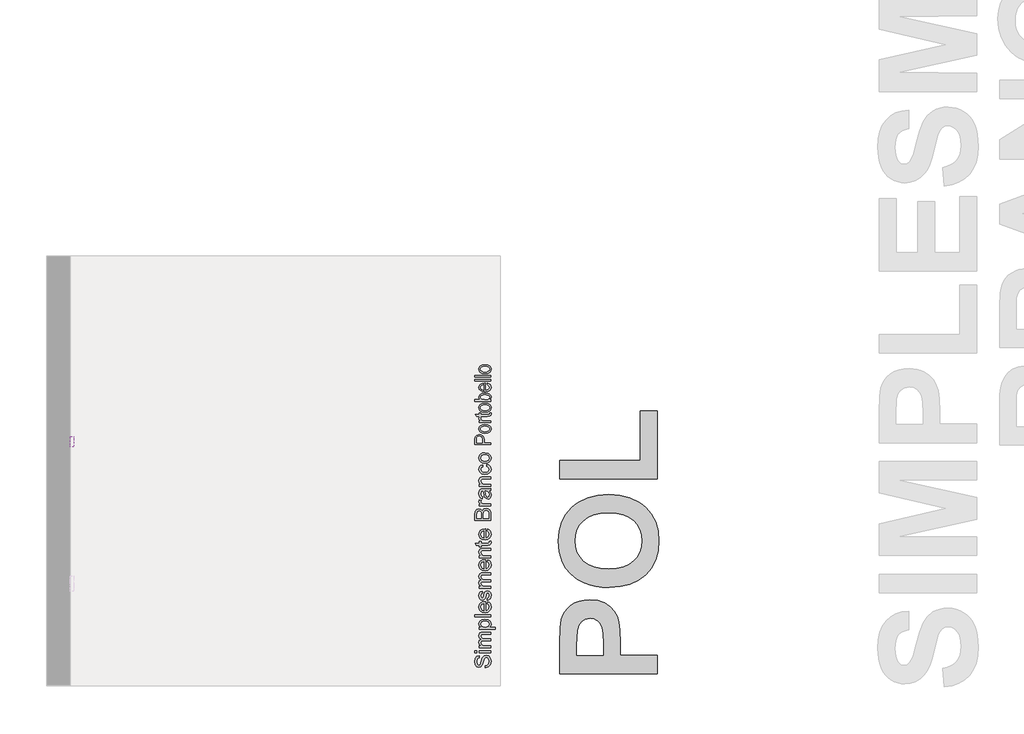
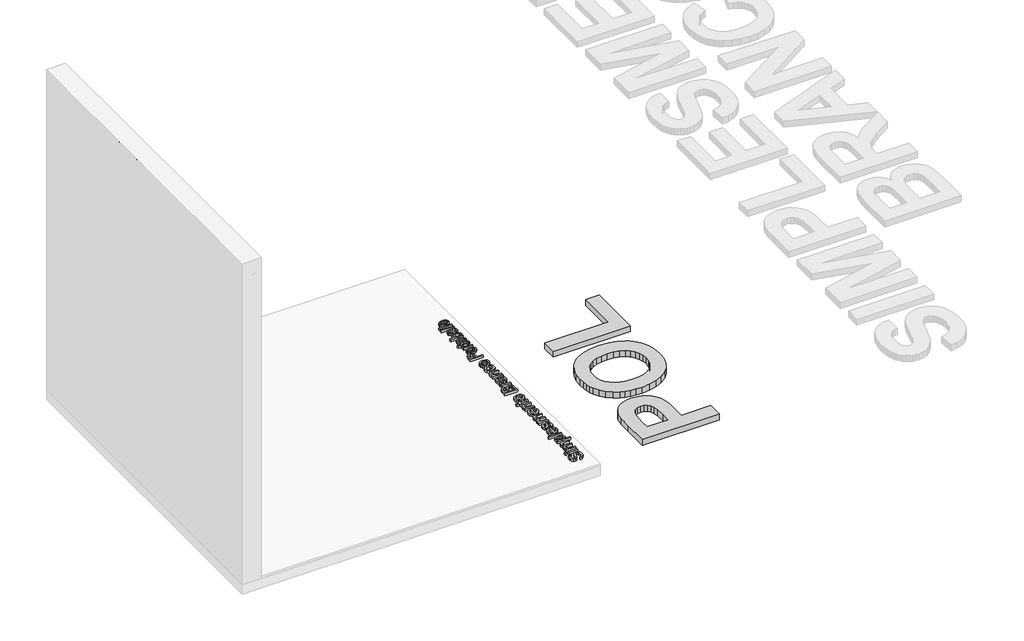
# One storey, part 3 of 6: 4 proxies.
"""IFC4 building model written with IfcOpenShell, lengths in millimetres."""

import ifcopenshell
import ifcopenshell.guid

model = None  # the IFC model being written
_history = None  # IfcOwnerHistory: only IFC2X3 demands one
_inside = {}  # id of a spatial element -> (the spatial element, [elements in it])
_under = {}  # id of a project, library or spatial element -> (it, [spatial elements below it])
_declared = {}  # id of a project -> (the project, [libraries it declares])
_typed = {}  # id of a type object -> (the type object, [elements of that type])
_made_of = {}  # id of a material, layer set ... -> (it, [elements and type objects made of it])


def new_model(schema):
    """Start an empty IFC model of exactly this schema.

    Asked for "IFC4X3", IfcOpenShell would pick the latest addendum, in which some entities
    have other attributes; the version numbers below select the first issue.
    IFC2X3 requires an IfcOwnerHistory on every rooted entity: one is made here for all.
    """
    global model, _history
    if schema == "IFC4X3":
        model = ifcopenshell.file(schema_version=(4, 3, 0, 0))
    else:
        model = ifcopenshell.file(schema=schema)
    _inside.clear()
    _under.clear()
    _declared.clear()
    _typed.clear()
    _made_of.clear()
    _history = None
    if model.schema == "IFC2X3":
        org = make("IfcOrganization", Name="unknown")
        user = make(
            "IfcPersonAndOrganization",
            ThePerson=make("IfcPerson", FamilyName="unknown"),
            TheOrganization=org,
        )
        app = make(
            "IfcApplication",
            ApplicationDeveloper=org,
            Version="unknown",
            ApplicationFullName="unknown",
            ApplicationIdentifier="unknown",
        )
        _history = make(
            "IfcOwnerHistory",
            OwningUser=user,
            OwningApplication=app,
            ChangeAction="ADDED",
            CreationDate=0,
        )
    return model


def make(cls, **values):
    """One entity of the class cls with the attributes given. An attribute that is None is left unset."""
    return model.create_entity(
        cls, **{name: value for name, value in values.items() if value is not None}
    )


def rooted(cls, **values):
    """An entity with a GlobalId (a new one), such as an element, a storey or a relation."""
    return make(cls, GlobalId=ifcopenshell.guid.new(), OwnerHistory=_history, **values)


def si_unit(unit_type, name, prefix=None):
    """IfcSIUnit, for example si_unit("LENGTHUNIT", "METRE", prefix="MILLI")."""
    return make("IfcSIUnit", UnitType=unit_type, Prefix=prefix, Name=name)


def assignment(units):
    """IfcUnitAssignment: the units of a project."""
    return None if units is None else make("IfcUnitAssignment", Units=units)


def point(xyz):
    """IfcCartesianPoint."""
    return None if xyz is None else make("IfcCartesianPoint", Coordinates=xyz)


def direction(xyz):
    """IfcDirection."""
    return None if xyz is None else make("IfcDirection", DirectionRatios=xyz)


def frame(location, z_axis=None, x_axis=None):
    """IfcAxis2Placement3D, a coordinate frame: its origin and axes. An axis left out is left unset."""
    return make(
        "IfcAxis2Placement3D",
        Location=point(location),
        Axis=direction(z_axis),
        RefDirection=direction(x_axis),
    )


def origin():
    """The frame at (0, 0, 0) with its axes left unset."""
    return frame((0.0, 0.0, 0.0))


def origin_with_axes():
    """The frame at (0, 0, 0) with the z axis (0, 0, 1) and the x axis (1, 0, 0) written out."""
    return frame((0.0, 0.0, 0.0), z_axis=(0.0, 0.0, 1.0), x_axis=(1.0, 0.0, 0.0))


def place(relative_to, where):
    """IfcLocalPlacement: puts the frame where relative to a parent placement (None: the world)."""
    return make(
        "IfcLocalPlacement", PlacementRelTo=relative_to, RelativePlacement=where
    )


def context(
    kind, dimensions, precision=None, world=None, true_north=None, identifier=None
):
    """IfcGeometricRepresentationContext, for example the 3D "Model" context."""
    return make(
        "IfcGeometricRepresentationContext",
        ContextIdentifier=identifier,
        ContextType=kind,
        CoordinateSpaceDimension=dimensions,
        Precision=precision,
        WorldCoordinateSystem=world,
        TrueNorth=true_north,
    )


def project(units=None, contexts=None):
    """IfcProject with its units and contexts."""
    return rooted(
        "IfcProject",
        Name="project",
        RepresentationContexts=contexts,
        UnitsInContext=assignment(units),
    )


def spatial(cls, under=None, at=None, **own):
    """A site, building, storey or space (cls), placed at a placement, below another one or the project."""
    s = rooted(cls, ObjectPlacement=at, **own)
    if under is not None:
        _under.setdefault(under.id(), (under, []))[1].append(s)
    return s


def polyline(points):
    """IfcPolyline through the points."""
    return make("IfcPolyline", Points=[point(p) for p in points])


def outline(outer, holes=None, kind="AREA"):
    """IfcArbitraryClosedProfileDef: a profile drawn as a closed curve; with holes, ...WithVoids."""
    if holes is None:
        return make("IfcArbitraryClosedProfileDef", ProfileType=kind, OuterCurve=outer)
    return make(
        "IfcArbitraryProfileDefWithVoids",
        ProfileType=kind,
        OuterCurve=outer,
        InnerCurves=holes,
    )


def extrude(swept, where, along, depth):
    """IfcExtrudedAreaSolid: the profile swept, set in the frame where, extruded along a direction by depth."""
    return make(
        "IfcExtrudedAreaSolid",
        SweptArea=swept,
        Position=where,
        ExtrudedDirection=direction(along),
        Depth=depth,
    )


def shape(context_of_items, identifier, shape_type, items):
    """IfcShapeRepresentation: the items that make up one representation, for example the "Body"."""
    return make(
        "IfcShapeRepresentation",
        ContextOfItems=context_of_items,
        RepresentationIdentifier=identifier,
        RepresentationType=shape_type,
        Items=items,
    )


def made_of(thing, what):
    """Note that an element or type object is made of a material, layer set ...; save() writes the relation."""
    if what is not None:
        _made_of.setdefault(what.id(), (what, []))[1].append(thing)
    return thing


def element(
    cls,
    number,
    at=None,
    inside=None,
    cuts=None,
    type_object=None,
    material=None,
    context=None,
    identifier="Body",
    shape_type=None,
    held_by="IfcProductDefinitionShape",
    body=None,
    shapes=None,
    **own,
):
    """One element of the class cls, such as IfcWall. Its Tag is "e" and its number.

    at: its placement. inside: the storey or other place that contains it. cuts: it is an
    opening in that element (IfcRelVoidsElement). A single representation is given by context,
    identifier, shape_type and body (its items); several are given by shapes. held_by: the class
    of the entity that holds the representations. save() writes the other relations.
    """
    e = rooted(cls, Tag="e%d" % number, ObjectPlacement=at, **own)
    if body is not None:
        shapes = [shape(context, identifier, shape_type, body)]
    if shapes is not None:
        e.Representation = make(held_by, Representations=shapes)
    if inside is not None:
        _inside.setdefault(inside.id(), (inside, []))[1].append(e)
    if cuts is not None:
        rooted(
            "IfcRelVoidsElement", RelatingBuildingElement=cuts, RelatedOpeningElement=e
        )
    if type_object is not None:
        _typed.setdefault(type_object.id(), (type_object, []))[1].append(e)
    return made_of(e, material)


def aggregate(whole, parts):
    """IfcRelAggregates: a whole, such as a stair, and the parts it consists of."""
    return rooted("IfcRelAggregates", RelatingObject=whole, RelatedObjects=parts)


def save(model, path):
    """Write the relations noted so far, then the file.

    IfcRelAggregates (storeys below a building ...), IfcRelContainedInSpatialStructure (elements
    in a storey), IfcRelDefinesByType, IfcRelAssociatesMaterial and IfcRelDeclares: one each for
    every whole, place, type object, material and project.
    """
    for whole, parts in _under.values():
        aggregate(whole, parts)
    for where, things in _inside.values():
        rooted(
            "IfcRelContainedInSpatialStructure",
            RelatedElements=things,
            RelatingStructure=where,
        )
    for kind, things in _typed.values():
        rooted("IfcRelDefinesByType", RelatedObjects=things, RelatingType=kind)
    for what, things in _made_of.values():
        rooted("IfcRelAssociatesMaterial", RelatedObjects=things, RelatingMaterial=what)
    for by, libraries in _declared.values():
        rooted("IfcRelDeclares", RelatingContext=by, RelatedDefinitions=libraries)
    model.write(path)


model = new_model("IFC4")

# Units and contexts
model_context = context("Model", 3, world=origin())
ifc_project = project(units=[si_unit("LENGTHUNIT", "METRE", prefix="MILLI")], contexts=[model_context])

# Site, building, storey
site = spatial("IfcSite", under=ifc_project)
building = spatial("IfcBuilding", under=site)
storey = spatial("IfcBuildingStorey", under=building, Name="PORTOBELLO - SHOWROOM", Elevation=0.0)

# Proxies
placement = place(None, origin())
element("IfcBuildingElementProxy", 1, Name="10mm Arial", ObjectType="10mm Arial", at=placement, inside=storey, context=model_context, shape_type="SweptSolid", body=[
    extrude(outline(polyline([(243776.2626228, -7918.9511253), (243776.2626228, -7906.3940866), (243788.8319243, -7902.3473846), (243796.7781754, -7892.4636217), (243799.8070705, -7877.4049853), (243797.5139394, -7864.2838608), (243791.2108946, -7855.8103122), (243782.7863969, -7853.0266718), (243774.9505104, -7855.1113364), (243769.2483395, -7863.6461987), (243764.4536108, -7881.9299339), (243758.2609305, -7901.6116206), (243748.9167279, -7912.2924612), (243736.4332655, -7915.8118656), (243722.2207577, -7911.4585954), (243712.189842, -7898.7421411), (243708.7685395, -7880.1273121), (243712.3492575, -7860.2616844), (243722.8706826, -7847.0179325), (243738.5915065, -7842.0392629), (243738.5915065, -7854.5963016), (243731.0989766, -7856.9016955), (243725.6911112, -7861.7086869), (243721.3255782, -7879.6368028), (243725.6420603, -7897.6139696), (243736.0653835, -7903.2548269), (243744.771924, -7899.2571759), (243751.7862074, -7878.753886), (243758.0892523, -7856.5338135), (243768.2673208, -7844.3814449), (243782.4675658, -7840.469633), (243797.489414, -7844.9700561), (243808.4522974, -7857.9195023), (243812.3641093, -7876.914476), (243808.1457291, -7899.343015), (243795.4415375, -7913.5309973), (243776.2626228, -7918.9511253)])), frame((0.0, 0.0, 17.0), z_axis=(0.0, 0.0, 1.0), x_axis=(1.0, 0.0, 0.0)), (0.0, 0.0, 1.0), 20.0),
    extrude(outline(polyline([(243722.8952081, -7823.2037047), (243710.3381693, -7823.2037047), (243710.3381693, -7810.6466659), (243722.8952081, -7810.6466659), (243722.8952081, -7823.2037047)])), frame((0.0, 0.0, 17.0), z_axis=(0.0, 0.0, 1.0), x_axis=(1.0, 0.0, 0.0)), (0.0, 0.0, 1.0), 20.0),
    extrude(outline(polyline([(243810.7944794, -7823.2037047), (243737.0218767, -7823.2037047), (243737.0218767, -7810.6466659), (243810.7944794, -7810.6466659), (243810.7944794, -7823.2037047)])), frame((0.0, 0.0, 17.0), z_axis=(0.0, 0.0, 1.0), x_axis=(1.0, 0.0, 0.0)), (0.0, 0.0, 1.0), 20.0),
    extrude(outline(polyline([(243810.7944794, -7791.8111078), (243737.0218767, -7791.8111078), (243737.0218767, -7779.254069), (243749.1619825, -7779.254069), (243739.2169059, -7770.6211049), (243735.4522468, -7758.3338462), (243739.2904823, -7745.752282), (243750.0448993, -7738.8361005), (243739.10041, -7729.0381767), (243735.4522468, -7716.6650789), (243736.9697601, -7707.2258401), (243741.5222998, -7700.2452792), (243749.2324932, -7695.9318628), (243760.2229678, -7694.4940573), (243810.7944794, -7694.4940573), (243810.7944794, -7707.0510961), (243765.6185704, -7707.0510961), (243755.1339336, -7708.2160558), (243749.9713229, -7712.434436), (243748.0092856, -7719.6081349), (243753.0370062, -7731.9567072), (243759.5791744, -7735.6447242), (243769.1502376, -7736.8740632), (243810.7944794, -7736.8740632), (243810.7944794, -7749.4311019), (243764.2206189, -7749.4311019), (243752.0559876, -7752.3373697), (243748.0092856, -7761.8655134), (243750.7070869, -7771.1606651), (243758.6042871, -7777.3410826), (243773.589347, -7779.254069), (243810.7944794, -7779.254069), (243810.7944794, -7791.8111078)])), frame((0.0, 0.0, 17.0), z_axis=(0.0, 0.0, 1.0), x_axis=(1.0, 0.0, 0.0)), (0.0, 0.0, 1.0), 20.0),
    extrude(outline(polyline([(243839.0478167, -7675.6584992), (243737.0218767, -7675.6584992), (243737.0218767, -7663.1014604), (243749.3336608, -7663.1014604), (243738.9226003, -7654.4194453), (243735.4522468, -7642.6962724), (243740.3082892, -7626.7792448), (243753.9934994, -7616.380447), (243773.3440923, -7612.8733053), (243793.6879667, -7616.8341682), (243807.5448552, -7628.3366119), (243812.3641093, -7644.2168513), (243809.1390105, -7655.1429466), (243800.9842929, -7663.1014604), (243839.0478167, -7663.1014604), (243839.0478167, -7675.6584992)]), holes=[polyline([(243774.4967893, -7663.1014604), (243785.7539783, -7661.7433627), (243793.626653, -7657.6690696), (243798.2619661, -7651.6572647), (243799.8070705, -7644.4866315), (243798.2067838, -7637.1995023), (243793.4059238, -7631.0344132), (243785.2450749, -7626.8313614), (243773.5648215, -7625.4303441), (243762.3689462, -7626.7976389), (243754.3859069, -7630.8995231), (243749.6034409, -7636.902131), (243748.0092856, -7643.9715967), (243749.7046085, -7651.0686535), (243754.790577, -7657.3011876), (243763.1077758, -7661.6513922), (243774.4967893, -7663.1014604)])]), frame((0.0, 0.0, 17.0), z_axis=(0.0, 0.0, 1.0), x_axis=(1.0, 0.0, 0.0)), (0.0, 0.0, 1.0), 20.0),
    extrude(outline(polyline([(243810.7944794, -7598.7466367), (243710.3381693, -7598.7466367), (243710.3381693, -7586.189598), (243810.7944794, -7586.189598), (243810.7944794, -7598.7466367)])), frame((0.0, 0.0, 17.0), z_axis=(0.0, 0.0, 1.0), x_axis=(1.0, 0.0, 0.0)), (0.0, 0.0, 1.0), 20.0),
    extrude(outline(polyline([(243788.8196616, -7515.7034077), (243790.3892914, -7503.3916236), (243799.6660491, -7507.8276673), (243806.6006247, -7514.90633), (243810.9232381, -7524.4681962), (243812.3641093, -7536.3538503), (243809.8778401, -7551.0875242), (243802.4190327, -7562.4244211), (243790.4720649, -7569.6533023), (243774.5213147, -7572.0629293), (243758.03407, -7569.6287768), (243745.7038918, -7562.3263192), (243738.0151581, -7551.1427065), (243735.4522468, -7537.0650889), (243738.0090267, -7523.4258639), (243745.6793663, -7512.5273598), (243757.985019, -7505.381252), (243774.4477383, -7502.9992161), (243777.8322527, -7503.0727925), (243777.8322527, -7559.5058906), (243787.2316377, -7557.3323211), (243794.1416878, -7552.2831407), (243798.3907248, -7544.9960115), (243799.8070705, -7536.1085957), (243797.1828456, -7523.7968116), (243788.8196616, -7515.7034077)]), holes=[polyline([(243765.2752139, -7559.5058906), (243765.2752139, -7515.5562549), (243753.8953975, -7520.5839755), (243749.4808136, -7527.9048272), (243748.0092856, -7537.1141398), (243752.7059124, -7552.5774463), (243758.1965512, -7557.4426857), (243765.2752139, -7559.5058906)])]), frame((0.0, 0.0, 17.0), z_axis=(0.0, 0.0, 1.0), x_axis=(1.0, 0.0, 0.0)), (0.0, 0.0, 1.0), 20.0),
    extrude(outline(polyline([(243788.8196616, -7495.1510669), (243787.2500318, -7482.5940281), (243796.569709, -7476.7814926), (243799.8070705, -7463.4641644), (243796.8394891, -7450.6618709), (243789.8742567, -7446.4925417), (243784.2333994, -7450.6863964), (243780.6526813, -7463.6113172), (243774.509052, -7482.5204517), (243767.3353531, -7490.7732711), (243757.2063355, -7493.581437), (243747.8498701, -7491.3250941), (243740.7006966, -7485.1692021), (243736.9850885, -7477.1861628), (243735.4522468, -7466.3826949), (243737.9170562, -7451.1033293), (243744.5879831, -7441.3912447), (243755.8574348, -7437.0747626), (243757.4270647, -7449.6318013), (243750.4986204, -7454.3529536), (243748.0092856, -7465.4016762), (243750.3882558, -7477.4191547), (243755.9310112, -7481.0243983), (243759.5853057, -7479.5283448), (243762.3566834, -7474.8439807), (243765.0299592, -7464.0282501), (243770.9405966, -7445.5973621), (243777.636049, -7437.0379744), (243788.5498815, -7433.9355029), (243800.56736, -7437.5775346), (243809.2861633, -7448.086697), (243812.3641093, -7463.6358426), (243810.8803186, -7476.2971146), (243806.4289464, -7485.5370841), (243799.0590438, -7491.7052389), (243788.8196616, -7495.1510669)])), frame((0.0, 0.0, 17.0), z_axis=(0.0, 0.0, 1.0), x_axis=(1.0, 0.0, 0.0)), (0.0, 0.0, 1.0), 20.0),
    extrude(outline(polyline([(243810.7944794, -7419.8088343), (243737.0218767, -7419.8088343), (243737.0218767, -7407.2517955), (243749.1619825, -7407.2517955), (243739.2169059, -7398.6188313), (243735.4522468, -7386.3315727), (243739.2904823, -7373.7500085), (243750.0448993, -7366.833827), (243739.10041, -7357.0359032), (243735.4522468, -7344.6628054), (243736.9697601, -7335.2235665), (243741.5222998, -7328.2430057), (243749.2324932, -7323.9295893), (243760.2229678, -7322.4917838), (243810.7944794, -7322.4917838), (243810.7944794, -7335.0488226), (243765.6185704, -7335.0488226), (243755.1339336, -7336.2137822), (243749.9713229, -7340.4321624), (243748.0092856, -7347.6058614), (243753.0370062, -7359.9544337), (243759.5791744, -7363.6424507), (243769.1502376, -7364.8717897), (243810.7944794, -7364.8717897), (243810.7944794, -7377.4288284), (243764.2206189, -7377.4288284), (243752.0559876, -7380.3350962), (243748.0092856, -7389.8632399), (243750.7070869, -7399.1583916), (243758.6042871, -7405.3388091), (243773.589347, -7407.2517955), (243810.7944794, -7407.2517955), (243810.7944794, -7419.8088343)])), frame((0.0, 0.0, 17.0), z_axis=(0.0, 0.0, 1.0), x_axis=(1.0, 0.0, 0.0)), (0.0, 0.0, 1.0), 20.0),
    extrude(outline(polyline([(243788.8196616, -7252.0055935), (243790.3892914, -7239.6938094), (243799.6660491, -7244.1298532), (243806.6006247, -7251.2085159), (243810.9232381, -7260.7703821), (243812.3641093, -7272.6560362), (243809.8778401, -7287.3897101), (243802.4190327, -7298.7266069), (243790.4720649, -7305.9554881), (243774.5213147, -7308.3651152), (243758.03407, -7305.9309627), (243745.7038918, -7298.6285051), (243738.0151581, -7287.4448924), (243735.4522468, -7273.3672747), (243738.0090267, -7259.7280498), (243745.6793663, -7248.8295456), (243757.985019, -7241.6834379), (243774.4477383, -7239.301402), (243777.8322527, -7239.3749784), (243777.8322527, -7295.8080764), (243787.2316377, -7293.634507), (243794.1416878, -7288.5853266), (243798.3907248, -7281.2981974), (243799.8070705, -7272.4107815), (243797.1828456, -7260.0989974), (243788.8196616, -7252.0055935)]), holes=[polyline([(243765.2752139, -7295.8080764), (243765.2752139, -7251.8584407), (243753.8953975, -7256.8861613), (243749.4808136, -7264.207013), (243748.0092856, -7273.4163257), (243752.7059124, -7288.8796322), (243758.1965512, -7293.7448716), (243765.2752139, -7295.8080764)])]), frame((0.0, 0.0, 17.0), z_axis=(0.0, 0.0, 1.0), x_axis=(1.0, 0.0, 0.0)), (0.0, 0.0, 1.0), 20.0),
    extrude(outline(polyline([(243810.7944794, -7226.7443632), (243737.0218767, -7226.7443632), (243737.0218767, -7214.1873244), (243747.3225725, -7214.1873244), (243738.4198283, -7204.5856044), (243735.4522468, -7191.4767426), (243737.8434798, -7179.6186796), (243744.1219992, -7171.5252757), (243753.3558373, -7167.7606166), (243765.4959431, -7167.0984291), (243810.7944794, -7167.0984291), (243810.7944794, -7179.6554678), (243767.1882003, -7179.6554678), (243756.078164, -7181.1024703), (243750.2043148, -7186.2160301), (243748.0092856, -7194.8367315), (243752.9389043, -7208.460628), (243760.0819464, -7212.7556503), (243771.6518352, -7214.1873244), (243810.7944794, -7214.1873244), (243810.7944794, -7226.7443632)])), frame((0.0, 0.0, 17.0), z_axis=(0.0, 0.0, 1.0), x_axis=(1.0, 0.0, 0.0)), (0.0, 0.0, 1.0), 20.0),
    extrude(outline(polyline([(243800.3221053, -7123.1487934), (243811.1623614, -7121.5791635), (243812.3641093, -7130.9724171), (243810.2794447, -7141.4938422), (243804.8102657, -7146.742292), (243790.5609697, -7148.2628709), (243749.5789155, -7148.2628709), (243749.5789155, -7157.68065), (243737.0218767, -7157.68065), (243737.0218767, -7148.2628709), (243719.0937608, -7148.2628709), (243711.7115954, -7135.7058321), (243737.0218767, -7135.7058321), (243737.0218767, -7123.1487934), (243749.5789155, -7123.1487934), (243749.5789155, -7135.7058321), (243790.1930877, -7135.7058321), (243796.6678108, -7135.0436445), (243798.9609419, -7132.8976662), (243799.8070705, -7128.6179724), (243800.3221053, -7123.1487934)])), frame((0.0, 0.0, 17.0), z_axis=(0.0, 0.0, 1.0), x_axis=(1.0, 0.0, 0.0)), (0.0, 0.0, 1.0), 20.0),
    extrude(outline(polyline([(243788.8196616, -7058.9411225), (243790.3892914, -7046.6293384), (243799.6660491, -7051.0653821), (243806.6006247, -7058.1440448), (243810.9232381, -7067.705911), (243812.3641093, -7079.5915651), (243809.8778401, -7094.325239), (243802.4190327, -7105.6621359), (243790.4720649, -7112.8910171), (243774.5213147, -7115.3006441), (243758.03407, -7112.8664916), (243745.7038918, -7105.564034), (243738.0151581, -7094.3804213), (243735.4522468, -7080.3028037), (243738.0090267, -7066.6635787), (243745.6793663, -7055.7650746), (243757.985019, -7048.6189668), (243774.4477383, -7046.2369309), (243777.8322527, -7046.3105073), (243777.8322527, -7102.7436054), (243787.2316377, -7100.5700359), (243794.1416878, -7095.5208555), (243798.3907248, -7088.2337263), (243799.8070705, -7079.3463105), (243797.1828456, -7067.0345264), (243788.8196616, -7058.9411225)]), holes=[polyline([(243765.2752139, -7102.7436054), (243765.2752139, -7058.7939697), (243753.8953975, -7063.8216903), (243749.4808136, -7071.142542), (243748.0092856, -7080.3518546), (243752.7059124, -7095.8151611), (243758.1965512, -7100.6804005), (243765.2752139, -7102.7436054)])]), frame((0.0, 0.0, 17.0), z_axis=(0.0, 0.0, 1.0), x_axis=(1.0, 0.0, 0.0)), (0.0, 0.0, 1.0), 20.0),
    extrude(outline(polyline([(243810.7944794, -6992.8695161), (243710.3381693, -6992.8695161), (243710.3381693, -6954.5362122), (243713.293488, -6935.7619678), (243722.3801733, -6924.676457), (243735.2315176, -6920.6665432), (243746.9669533, -6924.0387948), (243755.8574348, -6934.2291261), (243765.226163, -6921.8560283), (243780.848885, -6917.5272835), (243794.3501543, -6920.4826022), (243803.9641371, -6927.8034539), (243809.0654341, -6938.7295492), (243810.7944794, -6954.8305178), (243810.7944794, -6992.8695161)]), holes=[polyline([(243751.1485453, -6980.3124774), (243751.1485453, -6957.3811663), (243750.0694248, -6943.9902617), (243745.4218489, -6935.933646), (243737.2426059, -6933.223582), (243729.0511001, -6935.749705), (243724.2073205, -6942.9847176), (243722.8952081, -6959.1224744), (243722.8952081, -6980.3124774), (243751.1485453, -6980.3124774)]), polyline([(243798.2374407, -6980.3124774), (243798.2374407, -6954.5607377), (243797.7469314, -6945.2410605), (243795.0123419, -6937.3561231), (243789.4327983, -6932.1321987), (243780.9715124, -6930.0843223), (243771.2103768, -6932.487818), (243765.3855785, -6940.2746536), (243763.7055841, -6955.787011), (243763.7055841, -6980.3124774), (243798.2374407, -6980.3124774)])]), frame((0.0, 0.0, 17.0), z_axis=(0.0, 0.0, 1.0), x_axis=(1.0, 0.0, 0.0)), (0.0, 0.0, 1.0), 20.0),
    extrude(outline(polyline([(243810.7944794, -6901.8309851), (243737.0218767, -6901.8309851), (243737.0218767, -6890.8435761), (243747.9357092, -6890.8435761), (243737.880268, -6883.0444778), (243735.4522468, -6875.1963286), (243739.3272705, -6862.5902389), (243750.5844596, -6866.7840937), (243748.0092856, -6875.6132615), (243750.4863577, -6882.713384), (243757.3534883, -6887.2383326), (243772.0197172, -6889.2739463), (243810.7944794, -6889.2739463), (243810.7944794, -6901.8309851)])), frame((0.0, 0.0, 17.0), z_axis=(0.0, 0.0, 1.0), x_axis=(1.0, 0.0, 0.0)), (0.0, 0.0, 1.0), 20.0),
    extrude(outline(polyline([(243801.3767004, -6807.6531943), (243809.8870372, -6819.8300883), (243812.3641093, -6833.2823066), (243810.8741872, -6843.7761405), (243806.404421, -6851.5169909), (243799.6169982, -6856.2902597), (243791.1741064, -6857.8813494), (243781.2412925, -6855.4778537), (243774.0308054, -6849.1625461), (243769.9105271, -6840.3701664), (243768.0220661, -6829.5053848), (243763.7055841, -6807.7267707), (243760.9096809, -6807.6531943), (243751.6390546, -6811.1112851), (243748.0092856, -6824.992699), (243750.425044, -6837.6968906), (243758.9966945, -6843.7546808), (243757.4270647, -6856.3117195), (243745.1643315, -6850.8793287), (243737.9783699, -6839.9409707), (243735.4522468, -6823.3740182), (243737.6840643, -6808.1559664), (243743.2881333, -6799.5597904), (243751.8107329, -6795.7092922), (243762.7981418, -6795.0961555), (243778.4208639, -6795.0961555), (243800.2362662, -6794.4584934), (243810.7944794, -6791.9568958), (243810.7944794, -6804.5139346), (243801.3767004, -6807.6531943)]), holes=[polyline([(243776.2626228, -6807.6531943), (243780.1131211, -6827.9112295), (243782.1487348, -6838.7146974), (243785.4596727, -6843.607528), (243790.2911896, -6845.3243106), (243797.0847438, -6841.584177), (243799.8070705, -6830.6090308), (243796.8027009, -6817.9048392), (243789.5309001, -6809.7133335), (243779.8188155, -6807.7267707), (243776.2626228, -6807.6531943)])]), frame((0.0, 0.0, 17.0), z_axis=(0.0, 0.0, 1.0), x_axis=(1.0, 0.0, 0.0)), (0.0, 0.0, 1.0), 20.0),
    extrude(outline(polyline([(243810.7944794, -6777.8302272), (243737.0218767, -6777.8302272), (243737.0218767, -6765.2731885), (243747.3225725, -6765.2731885), (243738.4198283, -6755.6714684), (243735.4522468, -6742.5626066), (243737.8434798, -6730.7045436), (243744.1219992, -6722.6111397), (243753.3558373, -6718.8464807), (243765.4959431, -6718.1842931), (243810.7944794, -6718.1842931), (243810.7944794, -6730.7413318), (243767.1882003, -6730.7413318), (243756.078164, -6732.1883344), (243750.2043148, -6737.3018941), (243748.0092856, -6745.9225955), (243752.9389043, -6759.5464921), (243760.0819464, -6763.8415144), (243771.6518352, -6765.2731885), (243810.7944794, -6765.2731885), (243810.7944794, -6777.8302272)])), frame((0.0, 0.0, 17.0), z_axis=(0.0, 0.0, 1.0), x_axis=(1.0, 0.0, 0.0)), (0.0, 0.0, 1.0), 20.0),
    extrude(outline(polyline([(243784.1107721, -6653.8294694), (243785.6804019, -6641.2724306), (243796.8486861, -6644.7734409), (243805.2885123, -6651.3523973), (243810.59521, -6660.3900316), (243812.3641093, -6671.267076), (243809.8962342, -6684.6242581), (243802.4926091, -6695.069041), (243790.4781963, -6701.8104786), (243774.1779582, -6704.0576245), (243753.3190491, -6700.219389), (243739.9158817, -6688.5207415), (243735.4522468, -6671.4387542), (243736.9850885, -6660.8284243), (243741.5836134, -6652.3456787), (243749.002567, -6646.2602973), (243758.9966945, -6642.8420605), (243760.5663244, -6655.3990992), (243751.160808, -6661.2238975), (243748.0092856, -6671.3406524), (243749.5605214, -6679.455516), (243754.2142286, -6685.8965166), (243762.2217934, -6690.0995684), (243773.8346017, -6691.5005857), (243785.6037598, -6690.1302253), (243793.6389157, -6686.019144), (243798.2650318, -6679.6946393), (243799.8070705, -6671.6840089), (243795.9565723, -6659.8504714), (243784.1107721, -6653.8294694)])), frame((0.0, 0.0, 17.0), z_axis=(0.0, 0.0, 1.0), x_axis=(1.0, 0.0, 0.0)), (0.0, 0.0, 1.0), 20.0),
    extrude(outline(polyline([(243773.9081781, -6633.4242814), (243756.1210836, -6630.708086), (243743.6192271, -6622.5594998), (243737.4939919, -6612.4917959), (243735.4522468, -6600.4375291), (243737.938516, -6587.2458939), (243745.3973234, -6576.7091405), (243757.240058, -6569.802156), (243772.8781085, -6567.4998278), (243795.2208083, -6571.5710553), (243807.8636862, -6583.4291182), (243812.3641093, -6600.4375291), (243809.8870372, -6613.7885799), (243802.4558209, -6624.3130706), (243790.364766, -6631.1464787), (243773.9081781, -6633.4242814)]), holes=[polyline([(243773.8836526, -6620.8672426), (243785.2481406, -6619.4141087), (243793.3446101, -6615.0547071), (243798.1914554, -6608.4941448), (243799.8070705, -6600.4375291), (243798.1822584, -6592.4177017), (243793.3078219, -6585.8694021), (243785.1040535, -6581.5100005), (243773.4912451, -6580.0568666), (243762.457851, -6581.5191975), (243754.471746, -6585.9061903), (243749.6249007, -6592.4636869), (243748.0092856, -6600.4375291), (243749.6187693, -6608.4941448), (243754.4472205, -6615.0547071), (243762.525296, -6619.4141087), (243773.8836526, -6620.8672426)])]), frame((0.0, 0.0, 17.0), z_axis=(0.0, 0.0, 1.0), x_axis=(1.0, 0.0, 0.0)), (0.0, 0.0, 1.0), 20.0),
])
element("IfcBuildingElementProxy", 2, Name="10mm Arial Narrow", ObjectType="10mm Arial Narrow", at=placement, inside=storey, context=model_context, shape_type="SweptSolid", body=[
    extrude(outline(polyline([(243810.7944794, -6516.9283362), (243710.0758757, -6516.9283362), (243710.0758757, -6485.6314515), (243711.9541964, -6469.33575), (243721.4346396, -6457.8627638), (243738.4537484, -6453.5730854), (243750.529574, -6455.3593938), (243760.1559677, -6460.718319), (243766.4572261, -6470.4621078), (243768.5576456, -6485.4030071), (243768.5576456, -6507.1813745), (243810.7944794, -6507.1813745), (243810.7944794, -6516.9283362)]), holes=[polyline([(243757.1861904, -6507.1813745), (243757.1861904, -6484.2100196), (243752.6553761, -6468.3458242), (243738.9867854, -6463.3200471), (243728.821009, -6465.7948615), (243723.0210591, -6471.7724904), (243721.447331, -6484.438464), (243721.447331, -6507.1813745), (243757.1861904, -6507.1813745)])]), frame((0.0, 0.0, 17.0), z_axis=(0.0, 0.0, 1.0), x_axis=(1.0, 0.0, 0.0)), (0.0, 0.0, 1.0), 20.0),
    extrude(outline(polyline([(243774.2433732, -6445.4506174), (243757.6525977, -6443.4961485), (243745.7005129, -6437.6327419), (243738.4759583, -6428.7741752), (243736.0677734, -6417.834226), (243738.4759583, -6407.0211904), (243745.7005129, -6398.137241), (243757.4622274, -6392.1976863), (243773.4818919, -6390.2178347), (243790.6437785, -6392.162785), (243802.7862336, -6397.9976361), (243810.0107882, -6406.8466843), (243812.4189731, -6417.834226), (243810.0044425, -6428.6948542), (243802.7608509, -6437.5692851), (243790.8024204, -6443.4802843), (243774.2433732, -6445.4506174)]), holes=[polyline([(243774.2179905, -6435.7036557), (243786.7697419, -6434.3996189), (243795.641, -6430.4875083), (243800.9142586, -6424.6463115), (243802.6720114, -6417.5550162), (243800.8983944, -6410.834943), (243795.5775432, -6405.1428697), (243786.690421, -6401.2593147), (243774.2179905, -6399.9647963), (243761.7043132, -6401.2688332), (243752.8457465, -6405.1809438), (243747.5724879, -6411.0221405), (243745.8147351, -6418.1134359), (243747.5820065, -6424.8811016), (243752.8838206, -6430.5636564), (243761.7519058, -6434.4186559), (243774.2179905, -6435.7036557)])]), frame((0.0, 0.0, 17.0), z_axis=(0.0, 0.0, 1.0), x_axis=(1.0, 0.0, 0.0)), (0.0, 0.0, 1.0), 20.0),
    extrude(outline(polyline([(243802.6720114, -6318.7401159), (243812.4189731, -6317.1156223), (243812.4189731, -6324.4766089), (243810.2995166, -6332.7513732), (243804.4995667, -6337.0664344), (243789.8537415, -6338.2340392), (243747.4392287, -6338.2340392), (243747.4392287, -6346.3565072), (243744.1902415, -6346.3565072), (243749.0637223, -6347.9810008), (243747.4392287, -6355.5450492), (243749.7617469, -6361.6242089), (243756.24703, -6365.4950726), (243771.6543366, -6367.4749241), (243810.7944794, -6367.4749241), (243810.7944794, -6377.2218858), (243737.692267, -6377.2218858), (243737.692267, -6367.4749241), (243747.3884633, -6367.4749241), (243738.3014522, -6361.2307768), (243736.0677734, -6354.8343332), (243737.692267, -6346.3565072), (243737.692267, -6338.2340392), (243721.447331, -6338.2340392), (243713.3248629, -6328.4870775), (243737.692267, -6328.4870775), (243737.692267, -6318.7401159), (243747.4392287, -6318.7401159), (243747.4392287, -6328.4870775), (243792.0874202, -6328.4870775), (243800.0829747, -6327.6240653), (243802.6720114, -6323.0044116), (243802.6720114, -6318.7401159)])), frame((0.0, 0.0, 17.0), z_axis=(0.0, 0.0, 1.0), x_axis=(1.0, 0.0, 0.0)), (0.0, 0.0, 1.0), 20.0),
    extrude(outline(polyline([(243774.2433732, -6312.2421414), (243757.6525977, -6310.2876726), (243745.7005129, -6304.4242659), (243738.4759583, -6295.5656992), (243736.0677734, -6284.6257501), (243738.4759583, -6273.8127145), (243745.7005129, -6264.9287651), (243757.4622274, -6258.9892103), (243773.4818919, -6257.0093587), (243790.6437785, -6258.9543091), (243802.7862336, -6264.7891602), (243810.0107882, -6273.6382084), (243812.4189731, -6284.6257501), (243810.0044425, -6295.4863783), (243802.7608509, -6304.3608092), (243790.8024204, -6310.2718084), (243774.2433732, -6312.2421414)]), holes=[polyline([(243774.2179905, -6302.4951798), (243786.7697419, -6301.1911429), (243795.641, -6297.2790323), (243800.9142586, -6291.4378356), (243802.6720114, -6284.3465402), (243800.8983944, -6277.6264671), (243795.5775432, -6271.9343938), (243786.690421, -6268.0508387), (243774.2179905, -6266.7563204), (243761.7043132, -6268.0603572), (243752.8457465, -6271.9724678), (243747.5724879, -6277.8136646), (243745.8147351, -6284.9049599), (243747.5820065, -6291.6726257), (243752.8838206, -6297.3551805), (243761.7519058, -6301.21018), (243774.2179905, -6302.4951798)])]), frame((0.0, 0.0, 17.0), z_axis=(0.0, 0.0, 1.0), x_axis=(1.0, 0.0, 0.0)), (0.0, 0.0, 1.0), 20.0),
    extrude(outline(polyline([(243810.7944794, -6234.2664482), (243810.7944794, -6244.0134099), (243710.0758757, -6244.0134099), (243710.0758757, -6234.2664482), (243745.4847598, -6234.2664482), (243738.402983, -6226.8673875), (243736.0677734, -6217.6661541), (243740.2686124, -6204.7844275), (243752.9980428, -6195.507046), (243773.6849536, -6192.0296144), (243790.139297, -6193.9618734), (243802.3420361, -6199.7586504), (243809.8997388, -6208.1317727), (243812.4189731, -6217.7930677), (243809.8045537, -6227.133906), (243802.0374436, -6234.2664482), (243810.7944794, -6234.2664482)]), holes=[polyline([(243773.6849536, -6234.2664482), (243790.9325068, -6232.1850658), (243799.66416, -6226.2962764), (243802.6720114, -6217.8438331), (243800.8825302, -6211.9011055), (243795.5140864, -6206.6627482), (243774.091077, -6201.776576), (243752.6553761, -6206.4850692), (243747.5248954, -6211.7297722), (243745.8147351, -6218.0468948), (243747.6042163, -6224.0245237), (243752.9726601, -6229.3168192), (243773.6849536, -6234.2664482)])]), frame((0.0, 0.0, 17.0), z_axis=(0.0, 0.0, 1.0), x_axis=(1.0, 0.0, 0.0)), (0.0, 0.0, 1.0), 20.0),
    extrude(outline(polyline([(243788.0515689, -6140.0458189), (243789.6760625, -6130.2988572), (243799.5626291, -6133.9983876), (243806.68248, -6139.8173745), (243810.9848498, -6147.5210278), (243812.4189731, -6156.8745574), (243810.0044425, -6168.4681114), (243802.7608509, -6177.6122336), (243790.9547167, -6183.5517884), (243774.8525584, -6185.5316399), (243758.1856347, -6183.5422698), (243746.0051054, -6177.5741595), (243738.5521064, -6168.5601237), (243736.0677734, -6157.432977), (243738.4664398, -6146.7500279), (243745.6624388, -6138.0025105), (243757.4019434, -6132.1676595), (243773.4311264, -6130.2227091), (243776.6801137, -6130.2988572), (243776.6801137, -6175.7846783), (243796.1232715, -6169.7816667), (243801.0348264, -6163.8516305), (243802.6720114, -6156.7476438), (243799.0169008, -6146.569176), (243788.0515689, -6140.0458189)]), holes=[polyline([(243766.933152, -6175.1247278), (243766.933152, -6140.0458189), (243752.6680675, -6144.3101146), (243747.5280682, -6150.1354472), (243745.8147351, -6157.3568289), (243751.5258454, -6169.5659137), (243766.933152, -6175.1247278)])]), frame((0.0, 0.0, 17.0), z_axis=(0.0, 0.0, 1.0), x_axis=(1.0, 0.0, 0.0)), (0.0, 0.0, 1.0), 20.0),
    extrude(outline(polyline([(243810.7944794, -6117.3029084), (243710.0758757, -6117.3029084), (243710.0758757, -6107.5559467), (243810.7944794, -6107.5559467), (243810.7944794, -6117.3029084)])), frame((0.0, 0.0, 17.0), z_axis=(0.0, 0.0, 1.0), x_axis=(1.0, 0.0, 0.0)), (0.0, 0.0, 1.0), 20.0),
    extrude(outline(polyline([(243810.7944794, -6091.3110106), (243710.0758757, -6091.3110106), (243710.0758757, -6081.564049), (243810.7944794, -6081.564049), (243810.7944794, -6091.3110106)])), frame((0.0, 0.0, 17.0), z_axis=(0.0, 0.0, 1.0), x_axis=(1.0, 0.0, 0.0)), (0.0, 0.0, 1.0), 20.0),
    extrude(outline(polyline([(243774.2433732, -6070.1925937), (243757.6525977, -6068.2381248), (243745.7005129, -6062.3747182), (243738.4759583, -6053.5161515), (243736.0677734, -6042.5762024), (243738.4759583, -6031.7631668), (243745.7005129, -6022.8792173), (243757.4622274, -6016.9396626), (243773.4818919, -6014.959811), (243790.6437785, -6016.9047614), (243802.7862336, -6022.7396124), (243810.0107882, -6031.5886606), (243812.4189731, -6042.5762024), (243810.0044425, -6053.4368305), (243802.7608509, -6062.3112614), (243790.8024204, -6068.2222606), (243774.2433732, -6070.1925937)]), holes=[polyline([(243774.2179905, -6060.4456321), (243786.7697419, -6059.1415952), (243795.641, -6055.2294846), (243800.9142586, -6049.3882879), (243802.6720114, -6042.2969925), (243800.8983944, -6035.5769193), (243795.5775432, -6029.884846), (243786.690421, -6026.001291), (243774.2179905, -6024.7067727), (243761.7043132, -6026.0108095), (243752.8457465, -6029.9229201), (243747.5724879, -6035.7641169), (243745.8147351, -6042.8554122), (243747.5820065, -6049.623078), (243752.8838206, -6055.3056327), (243761.7519058, -6059.1606322), (243774.2179905, -6060.4456321)])]), frame((0.0, 0.0, 17.0), z_axis=(0.0, 0.0, 1.0), x_axis=(1.0, 0.0, 0.0)), (0.0, 0.0, 1.0), 20.0),
])
element("IfcBuildingElementProxy", 3, Name="10mm Arial Narrow", ObjectType="10mm Arial Narrow", at=placement, inside=storey, context=model_context, shape_type="SweptSolid", body=[
    extrude(outline(polyline([(-6530.2020504, 2478.2261649), (-6530.2020504, 2578.9447687), (-6498.9051657, 2578.9447687), (-6482.6094642, 2577.066448), (-6471.1364781, 2567.5860048), (-6466.8467996, 2550.566896), (-6468.633108, 2538.4910704), (-6473.9920333, 2528.8646767), (-6483.7358221, 2522.5634182), (-6498.6767213, 2520.4629988), (-6520.4550887, 2520.4629988), (-6520.4550887, 2478.2261649), (-6530.2020504, 2478.2261649)]), holes=[polyline([(-6520.4550887, 2531.834454), (-6497.4837338, 2531.834454), (-6481.6195384, 2536.3652682), (-6476.5937613, 2550.033859), (-6479.0685758, 2560.1996354), (-6485.0462046, 2565.9995852), (-6497.7121782, 2567.5733134), (-6520.4550887, 2567.5733134), (-6520.4550887, 2531.834454)])]), frame((241170.995962, 0.0, 0.0), z_axis=(1.0, 0.0, 0.0), x_axis=(0.0, 1.0, 0.0)), (0.0, 0.0, 1.0), 20.0),
    extrude(outline(polyline([(-6458.7243316, 2514.7772711), (-6456.7698627, 2531.3680467), (-6450.9064561, 2543.3201315), (-6442.0478894, 2550.5446861), (-6431.1079402, 2552.9528709), (-6420.2949047, 2550.5446861), (-6411.4109552, 2543.3201315), (-6405.4714005, 2531.558417), (-6403.4915489, 2515.5387525), (-6405.4364993, 2498.3768659), (-6411.2713503, 2486.2344108), (-6420.1203985, 2479.0098562), (-6431.1079402, 2476.6016713), (-6441.9685684, 2479.0162019), (-6450.8429993, 2486.2597935), (-6456.7539985, 2498.218224), (-6458.7243316, 2514.7772711)]), holes=[polyline([(-6448.9773699, 2514.8026538), (-6447.6733331, 2502.2509024), (-6443.7612225, 2493.3796444), (-6437.9200258, 2488.1063858), (-6430.8287304, 2486.348633), (-6424.1086572, 2488.12225), (-6418.4165839, 2493.4431012), (-6414.5330289, 2502.3302234), (-6413.2385105, 2514.8026538), (-6414.5425474, 2527.3163312), (-6418.454658, 2536.1748979), (-6424.2958547, 2541.4481564), (-6431.3871501, 2543.2059093), (-6438.1548158, 2541.4386379), (-6443.8373706, 2536.1368238), (-6447.6923701, 2527.2687386), (-6448.9773699, 2514.8026538)])]), frame((241170.995962, 0.0, 0.0), z_axis=(1.0, 0.0, 0.0), x_axis=(0.0, 1.0, 0.0)), (0.0, 0.0, 1.0), 20.0),
    extrude(outline(polyline([(-6332.0138301, 2486.348633), (-6330.3893365, 2476.6016713), (-6337.7503232, 2476.6016713), (-6346.0250875, 2478.7211278), (-6350.3401486, 2484.5210777), (-6351.5077534, 2499.1669029), (-6351.5077534, 2541.5814157), (-6359.6302215, 2541.5814157), (-6359.6302215, 2544.8304029), (-6361.2547151, 2539.9569221), (-6368.8187634, 2541.5814157), (-6374.8979231, 2539.2588975), (-6378.7687868, 2532.7736144), (-6380.7486384, 2517.3663078), (-6380.7486384, 2478.2261649), (-6390.4956, 2478.2261649), (-6390.4956, 2551.3283773), (-6380.7486384, 2551.3283773), (-6380.7486384, 2541.6321811), (-6374.5044911, 2550.7191922), (-6368.1080475, 2552.9528709), (-6359.6302215, 2551.3283773), (-6351.5077534, 2551.3283773), (-6351.5077534, 2567.5733134), (-6341.7607918, 2575.6957815), (-6341.7607918, 2551.3283773), (-6332.0138301, 2551.3283773), (-6332.0138301, 2541.5814157), (-6341.7607918, 2541.5814157), (-6341.7607918, 2496.9332242), (-6340.8977795, 2488.9376697), (-6336.2781258, 2486.348633), (-6332.0138301, 2486.348633)])), frame((241170.995962, 0.0, 0.0), z_axis=(1.0, 0.0, 0.0), x_axis=(0.0, 1.0, 0.0)), (0.0, 0.0, 1.0), 20.0),
    extrude(outline(polyline([(-6325.5158557, 2514.7772711), (-6323.5613868, 2531.3680467), (-6317.6979802, 2543.3201315), (-6308.8394135, 2550.5446861), (-6297.8994643, 2552.9528709), (-6287.0864287, 2550.5446861), (-6278.2024793, 2543.3201315), (-6272.2629245, 2531.558417), (-6270.283073, 2515.5387525), (-6272.2280233, 2498.3768659), (-6278.0628744, 2486.2344108), (-6286.9119226, 2479.0098562), (-6297.8994643, 2476.6016713), (-6308.7600925, 2479.0162019), (-6317.6345234, 2486.2597935), (-6323.5455226, 2498.218224), (-6325.5158557, 2514.7772711)]), holes=[polyline([(-6315.768894, 2514.8026538), (-6314.4648572, 2502.2509024), (-6310.5527466, 2493.3796444), (-6304.7115498, 2488.1063858), (-6297.6202545, 2486.348633), (-6290.9001813, 2488.12225), (-6285.208108, 2493.4431012), (-6281.324553, 2502.3302234), (-6280.0300346, 2514.8026538), (-6281.3340715, 2527.3163312), (-6285.2461821, 2536.1748979), (-6291.0873788, 2541.4481564), (-6298.1786742, 2543.2059093), (-6304.9463399, 2541.4386379), (-6310.6288947, 2536.1368238), (-6314.4838942, 2527.2687386), (-6315.768894, 2514.8026538)])]), frame((241170.995962, 0.0, 0.0), z_axis=(1.0, 0.0, 0.0), x_axis=(0.0, 1.0, 0.0)), (0.0, 0.0, 1.0), 20.0),
    extrude(outline(polyline([(-6247.5401624, 2478.2261649), (-6257.2871241, 2478.2261649), (-6257.2871241, 2578.9447687), (-6247.5401624, 2578.9447687), (-6247.5401624, 2543.5358846), (-6240.1411017, 2550.6176614), (-6230.9398684, 2552.9528709), (-6218.0581417, 2548.752032), (-6208.7807602, 2536.0226016), (-6205.3033286, 2515.3356908), (-6207.2355876, 2498.8813473), (-6213.0323646, 2486.6786082), (-6221.4054869, 2479.1209056), (-6231.0667819, 2476.6016713), (-6240.4076202, 2479.2160907), (-6247.5401624, 2486.9832008), (-6247.5401624, 2478.2261649)]), holes=[polyline([(-6247.5401624, 2515.3356908), (-6245.45878, 2498.0881376), (-6239.5699907, 2489.3564844), (-6231.1175474, 2486.348633), (-6225.1748198, 2488.1381142), (-6219.9364624, 2493.5065579), (-6215.0502903, 2514.9295674), (-6219.7587835, 2536.3652682), (-6225.0034865, 2541.495749), (-6231.3206091, 2543.2059093), (-6237.2982379, 2541.4164281), (-6242.5905335, 2536.0479843), (-6247.5401624, 2515.3356908)])]), frame((241170.995962, 0.0, 0.0), z_axis=(1.0, 0.0, 0.0), x_axis=(0.0, 1.0, 0.0)), (0.0, 0.0, 1.0), 20.0),
    extrude(outline(polyline([(-6153.3195331, 2500.9690755), (-6143.5725715, 2499.3445819), (-6147.2721018, 2489.4580153), (-6153.0910887, 2482.3381644), (-6160.794742, 2478.0357946), (-6170.1482716, 2476.6016713), (-6181.7418256, 2479.0162019), (-6190.8859478, 2486.2597935), (-6196.8255026, 2498.0659277), (-6198.8053542, 2514.168086), (-6196.8159841, 2530.8350097), (-6190.8478738, 2543.0155389), (-6181.8338379, 2550.4685379), (-6170.7066913, 2552.9528709), (-6160.0237421, 2550.5542046), (-6151.2762248, 2543.3582056), (-6145.4413737, 2531.618701), (-6143.4964233, 2515.5895179), (-6143.5725715, 2512.3405307), (-6189.0583925, 2512.3405307), (-6183.055381, 2492.8973728), (-6177.1253447, 2487.9858179), (-6170.021358, 2486.348633), (-6159.8428903, 2490.0037436), (-6153.3195331, 2500.9690755)]), holes=[polyline([(-6188.398442, 2522.0874924), (-6153.3195331, 2522.0874924), (-6157.5838288, 2536.3525769), (-6163.4091614, 2541.4925762), (-6170.6305431, 2543.2059093), (-6182.8396279, 2537.4947989), (-6188.398442, 2522.0874924)])]), frame((241170.995962, 0.0, 0.0), z_axis=(1.0, 0.0, 0.0), x_axis=(0.0, 1.0, 0.0)), (0.0, 0.0, 1.0), 20.0),
    extrude(outline(polyline([(241190.995962, -6120.8296609), (241190.995962, -6130.5766226), (241170.995962, -6130.5766226), (241170.995962, -6120.8296609), (241190.995962, -6120.8296609)])), frame((0.0, 0.0, 2478.2261649), z_axis=(0.0, 0.0, 1.0), x_axis=(1.0, 0.0, 0.0)), (0.0, 0.0, 1.0), 100.7186038),
    extrude(outline(polyline([(241190.995962, -6094.8377632), (241190.995962, -6104.5847249), (241170.995962, -6104.5847249), (241170.995962, -6094.8377632), (241190.995962, -6094.8377632)])), frame((0.0, 0.0, 2478.2261649), z_axis=(0.0, 0.0, 1.0), x_axis=(1.0, 0.0, 0.0)), (0.0, 0.0, 1.0), 100.7186038),
    extrude(outline(polyline([(-6083.4663079, 2514.7772711), (-6081.5118391, 2531.3680467), (-6075.6484324, 2543.3201315), (-6066.7898657, 2550.5446861), (-6055.8499166, 2552.9528709), (-6045.036881, 2550.5446861), (-6036.1529316, 2543.3201315), (-6030.2133768, 2531.558417), (-6028.2335252, 2515.5387525), (-6030.1784756, 2498.3768659), (-6036.0133267, 2486.2344108), (-6044.8623749, 2479.0098562), (-6055.8499166, 2476.6016713), (-6066.7105448, 2479.0162019), (-6075.5849757, 2486.2597935), (-6081.4959749, 2498.218224), (-6083.4663079, 2514.7772711)]), holes=[polyline([(-6073.7193463, 2514.8026538), (-6072.4153094, 2502.2509024), (-6068.5031988, 2493.3796444), (-6062.6620021, 2488.1063858), (-6055.5707067, 2486.348633), (-6048.8506336, 2488.12225), (-6043.1585603, 2493.4431012), (-6039.2750052, 2502.3302234), (-6037.9804869, 2514.8026538), (-6039.2845237, 2527.3163312), (-6043.1966343, 2536.1748979), (-6049.0378311, 2541.4481564), (-6056.1291264, 2543.2059093), (-6062.8967922, 2541.4386379), (-6068.579347, 2536.1368238), (-6072.4343465, 2527.2687386), (-6073.7193463, 2514.8026538)])]), frame((241170.995962, 0.0, 0.0), z_axis=(1.0, 0.0, 0.0), x_axis=(0.0, 1.0, 0.0)), (0.0, 0.0, 1.0), 20.0),
])
element("IfcBuildingElementProxy", 4, Name="600mm Arial", ObjectType="600mm Arial", at=placement, inside=storey, context=model_context, shape_type="SweptSolid", body=[
    extrude(outline(polyline([(244856.8675388, -7957.7447225), (244244.7118988, -7957.7447225), (244244.7118988, -7760.5249367), (244246.9892636, -7667.8741482), (244253.8213578, -7614.3181209), (244262.6698686, -7589.1959412), (244275.5512129, -7566.2087909), (244292.4653905, -7545.3566701), (244313.4124016, -7526.6395787), (244338.0411522, -7511.1961991), (244366.0005488, -7500.1652137), (244397.2905914, -7493.5466224), (244431.9112798, -7491.3404253), (244483.4746129, -7496.5214301), (244505.9114001, -7502.9976861), (244526.1182675, -7512.0644444), (244560.2028264, -7535.5972133), (244586.0888722, -7564.7474819), (244604.2128998, -7596.9532148), (244615.0114043, -7629.6523767), (244621.5018937, -7684.4989107), (244623.6653902, -7759.4621665), (244623.6653902, -7841.1436482), (244856.8675388, -7841.1436482), (244856.8675388, -7957.7447225)]), holes=[polyline([(244351.5962169, -7841.1436482), (244516.7810721, -7841.1436482), (244516.7810721, -7768.7234497), (244514.5037074, -7703.4959282), (244507.6716132, -7664.1924085), (244495.9621629, -7640.6975957), (244479.0527298, -7622.8961947), (244457.9681279, -7611.6801734), (244433.7331716, -7607.9414996), (244404.7726834, -7613.1984166), (244381.3537827, -7628.9691673), (244364.5771959, -7652.7486507), (244355.5436491, -7682.0317656), (244351.5962169, -7777.2256114), (244351.5962169, -7841.1436482)])]), origin_with_axes(), (0.0, 0.0, 1.0), 50.0),
    extrude(outline(polyline([(244554.5853267, -7413.6063758), (244509.7781756, -7411.8888633), (244468.7286763, -7406.7363256), (244431.4368288, -7398.1487627), (244397.9026331, -7386.1261747), (244353.6648232, -7361.8912184), (244314.1715232, -7330.1789145), (244281.851922, -7293.0388913), (244259.1352088, -7252.5207771), (244248.5739298, -7223.3515305), (244241.0301592, -7192.0187874), (244236.5038968, -7158.5225478), (244234.9951426, -7122.8628117), (244240.228337, -7059.7608306), (244255.9279201, -7003.3011633), (244282.093892, -6953.4838098), (244318.7262526, -6910.30877), (244340.6802859, -6891.6272625), (244364.6768306, -6875.4366226), (244418.7974545, -6850.5279458), (244481.0881245, -6835.5827398), (244551.5488404, -6830.6010044), (244621.5303608, -6835.5447837), (244683.4462145, -6850.3761215), (244737.2964013, -6875.0950179), (244761.1968698, -6891.1623005), (244783.0809215, -6909.7014728), (244819.6136474, -6952.5918419), (244845.7084516, -7002.1624809), (244861.3653341, -7058.4133898), (244866.584295, -7121.3445685), (244861.3890567, -7184.9399787), (244845.8033418, -7241.6653386), (244819.8271503, -7291.5206481), (244783.4604823, -7334.5059075), (244737.9843553, -7369.1123624), (244684.679787, -7393.8312587), (244623.5467775, -7408.6625966), (244554.5853267, -7413.6063758)]), holes=[polyline([(244550.3342459, -7297.0053015), (244598.7567135, -7293.9071366), (244640.9354061, -7284.6126418), (244676.8703238, -7269.1218171), (244706.5614665, -7247.4346625), (244729.8095648, -7220.9745311), (244746.4153493, -7191.1647756), (244756.37882, -7158.0053962), (244759.6999769, -7121.4963929), (244756.4025425, -7085.0253456), (244746.5102395, -7051.9798344), (244730.0230677, -7022.3598594), (244706.9410273, -6996.1654204), (244677.2641181, -6974.7439584), (244640.9923402, -6959.4429141), (244598.1256937, -6950.2622876), (244548.6641784, -6947.2020787), (244499.890617, -6950.1816309), (244457.7214134, -6959.1202875), (244422.1565675, -6974.0180484), (244393.1960794, -6994.8749138), (244370.7450587, -7020.6660694), (244354.7086154, -7050.3667011), (244345.0867494, -7083.9768089), (244341.8794607, -7121.4963929), (244345.1247055, -7159.0539329), (244354.8604397, -7192.777909), (244371.0866634, -7222.6683211), (244393.8033766, -7248.7251692), (244423.0580244, -7269.8477271), (244458.8980519, -7284.9352685), (244501.323459, -7293.9877933), (244550.3342459, -7297.0053015)])]), origin_with_axes(), (0.0, 0.0, 1.0), 50.0),
    extrude(outline(polyline([(244856.8675388, -6733.4334425), (244244.7118988, -6733.4334425), (244244.7118988, -6616.8323682), (244749.9832207, -6616.8323682), (244749.9832207, -6305.8961702), (244856.8675388, -6305.8961702), (244856.8675388, -6733.4334425)])), origin_with_axes(), (0.0, 0.0, 1.0), 50.0),
])

save(model, "model.ifc")
